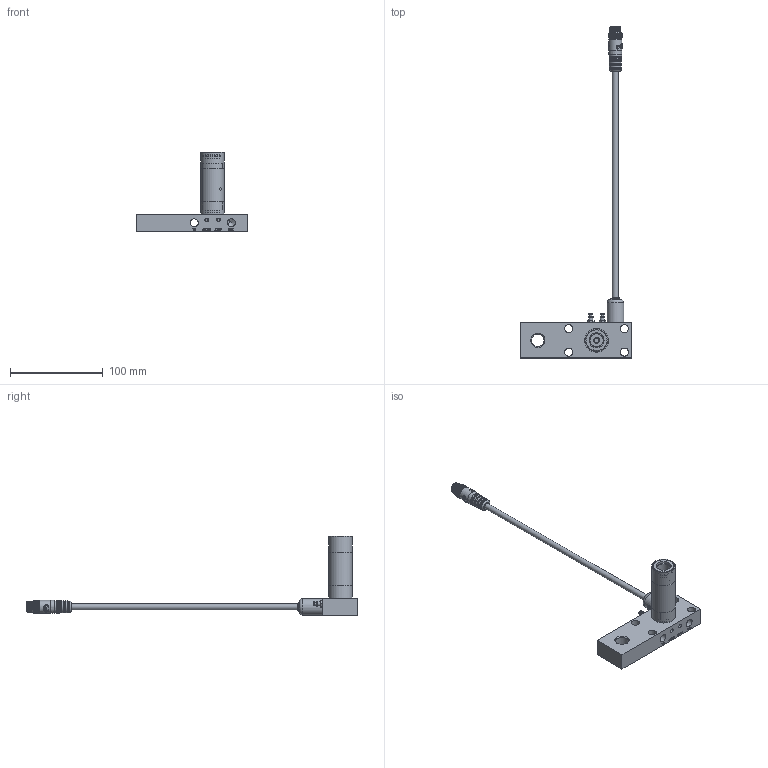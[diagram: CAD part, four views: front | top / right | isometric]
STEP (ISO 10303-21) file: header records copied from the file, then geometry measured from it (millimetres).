
FILE_DESCRIPTION(/* description */ ('ASSY,BODY,VF,IA,SXHR2,NHP_0002712522'),/* implementation_level */ '2;1');
FILE_NAME(/* name */ 'X:\ASSY,BODY,VF,IA,SXHR2,NHP_0002712522.stp',/* time_stamp */ '2021-07-07T13:01:55-04:00',/* author */ ('Simon.Britton'),/* organization */ (''),/* preprocessor_version */ 'ST-DEVELOPER v17',/* originating_system */ 'Autodesk Inventor 2019',/* authorisation */ '');
FILE_SCHEMA (('AUTOMOTIVE_DESIGN { 1 0 10303 214 3 1 1 }'));
Length unit declared in the file: centimetre
Products named in the file (1): ASSY,BODY,VF,IA,SXHR2,NHP
Bounding box: 120.65 x 358.79 x 85.72 mm (x, y, z)
Volume: 108359.7 mm3; surface area: 61623.8 mm2
Topology: 1 solids, 70 shells, 4061 faces, 9681 edges, 5822 vertices
Faces by surface type: bspline 2526, plane 754, cylinder 686, cone 62, torus 26, sphere 7
Full cylindrical faces by diameter (mm): 1 x5, 1.05 x5, 1.25 x10, 1.35 x5, 1.6 x10, 1.8 x5, 1.85 x5, 2 x1, 2.381 x2, 2.388 x8, 2.464 x1, 2.946 x2, 3 x1, 3.2 x1, 3.81 x2, 3.962 x6, 4.216 x4, 4.366 x1, 4.496 x2, 4.763 x2, 4.8 x3, 5.7 x1, 6.35 x4, 6.4 x1, 7 x1, 8.731 x8, 9.4 x1, 9.7 x2, 10.6 x2, 10.9 x1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
Entity records: 260152 total; most frequent: CARTESIAN_POINT 172790, ORIENTED_EDGE 19316, DIRECTION 13897, EDGE_CURVE 9658, AXIS2_PLACEMENT_3D 5861, VERTEX_POINT 5821, CIRCLE 4285, EDGE_LOOP 4260
